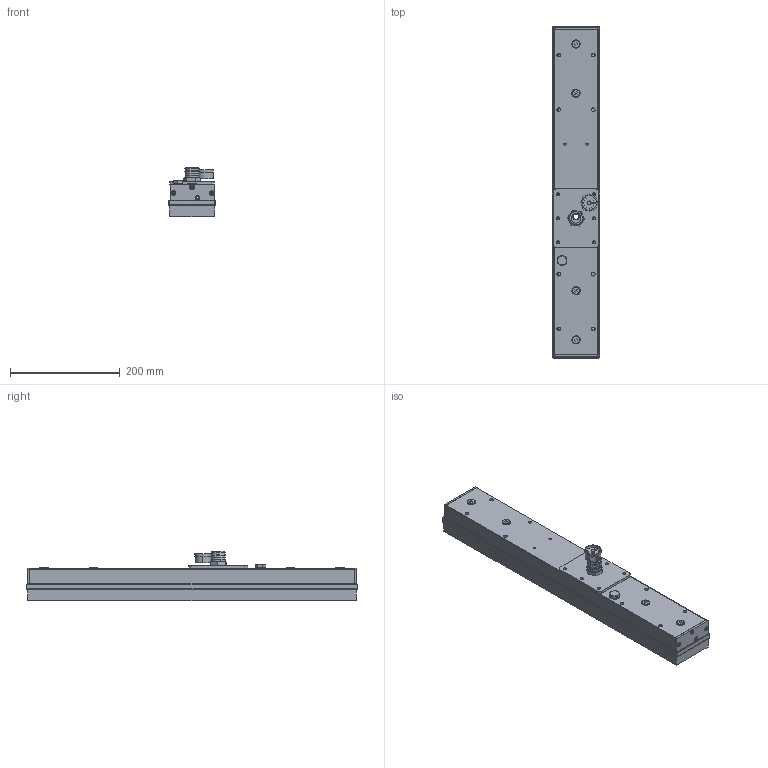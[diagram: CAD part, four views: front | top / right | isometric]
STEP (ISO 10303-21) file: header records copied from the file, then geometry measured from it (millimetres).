
FILE_DESCRIPTION (( 'STEP AP214' ), '1' );
FILE_NAME ('9671-060-010.STEP', '2008-08-14T08:04:16', ( 'Bosse' ), ( '' ), 'SwSTEP 2.0', 'SolidWorks 2008', '' );
FILE_SCHEMA (( 'AUTOMOTIVE_DESIGN' ));
Length unit declared in the file: millimetre
Products named in the file (1): 9671-060-010
Bounding box: 86 x 606 x 90 mm (x, y, z)
Surface area: 356852.4 mm2 (no closed solid volume)
Topology: 0 solids, 20 shells, 393 faces, 1634 edges, 1264 vertices
Faces by surface type: cylinder 232, plane 131, cone 24, bspline 4, torus 2
Entity records: 22329 total; most frequent: CARTESIAN_POINT 3692, DIRECTION 3257, ORIENTED_EDGE 2408, EDGE_CURVE 1634, AXIS2_PLACEMENT_3D 1295, VERTEX_POINT 1264, CIRCLE 905, EDGE_LOOP 667
